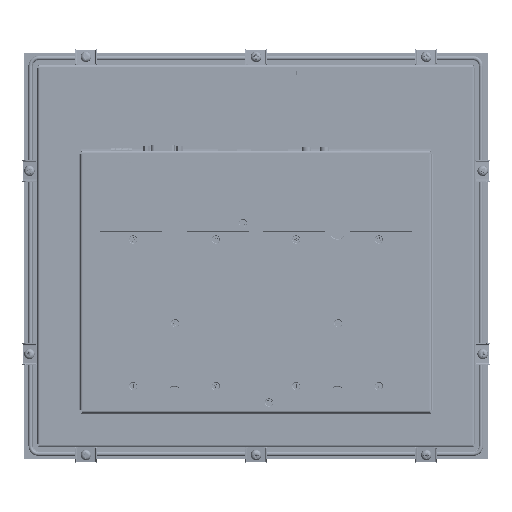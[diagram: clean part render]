
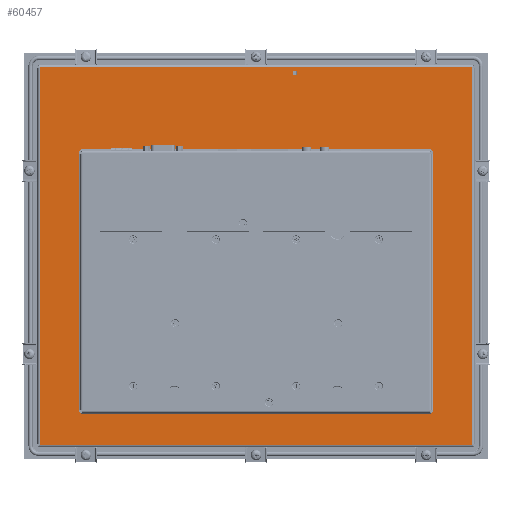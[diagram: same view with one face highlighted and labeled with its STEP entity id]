
A CAD part, front view. The second image highlights one B-rep face of the part: STEP entity #60457.
In plain terms, the highlighted planar face has unit normal (0, -1, 0).
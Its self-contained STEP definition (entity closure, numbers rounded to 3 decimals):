
#6678 = EDGE_CURVE ( 'NONE', #94868, #227664, #9383, .T. ) ;
#9383 = LINE ( 'NONE', #206292, #215999 ) ;
#10207 = VECTOR ( 'NONE', #42493, 1000. ) ;
#12584 = AXIS2_PLACEMENT_3D ( 'NONE', #89843, #246647, #88504 ) ;
#12777 = CARTESIAN_POINT ( 'NONE',  ( -165.2, -19.35, -138.277 ) ) ;
#13861 = VERTEX_POINT ( 'NONE', #133307 ) ;
#14222 = EDGE_CURVE ( 'NONE', #120765, #82342, #125392, .T. ) ;
#17472 = VERTEX_POINT ( 'NONE', #200472 ) ;
#17811 = LINE ( 'NONE', #96759, #134117 ) ;
#18886 = VERTEX_POINT ( 'NONE', #155862 ) ;
#21225 = LINE ( 'NONE', #160995, #137488 ) ;
#22937 = LINE ( 'NONE', #256159, #82817 ) ;
#24504 = EDGE_CURVE ( 'NONE', #76722, #13861, #39013, .T. ) ;
#26798 = ORIENTED_EDGE ( 'NONE', *, *, #53403, .T. ) ;
#27034 = DIRECTION ( 'NONE',  ( 0., 0., 1. ) ) ;
#28979 = PLANE ( 'NONE',  #12584 ) ;
#31308 = ORIENTED_EDGE ( 'NONE', *, *, #64352, .T. ) ;
#32636 = ORIENTED_EDGE ( 'NONE', *, *, #33282, .T. ) ;
#33282 = EDGE_CURVE ( 'NONE', #227664, #18886, #121607, .T. ) ;
#38412 = VECTOR ( 'NONE', #119178, 1000. ) ;
#38954 = EDGE_CURVE ( 'NONE', #118944, #140153, #42699, .T. ) ;
#39013 = LINE ( 'NONE', #134771, #38412 ) ;
#41089 = ORIENTED_EDGE ( 'NONE', *, *, #197604, .T. ) ;
#41456 = DIRECTION ( 'NONE',  ( 0., 0., 1. ) ) ;
#42493 = DIRECTION ( 'NONE',  ( 0., 0., 1. ) ) ;
#42699 = LINE ( 'NONE', #178569, #234829 ) ;
#43115 = ORIENTED_EDGE ( 'NONE', *, *, #246004, .T. ) ;
#44816 = CARTESIAN_POINT ( 'NONE',  ( 165.2, -19.35, 149.152 ) ) ;
#45789 = DIRECTION ( 'NONE',  ( -0.707, 0., 0.707 ) ) ;
#48034 = VECTOR ( 'NONE', #61952, 1000. ) ;
#53403 = EDGE_CURVE ( 'NONE', #198792, #94868, #67308, .T. ) ;
#55376 = EDGE_CURVE ( 'NONE', #83539, #78266, #199138, .T. ) ;
#60067 = DIRECTION ( 'NONE',  ( 0., 0., -1. ) ) ;
#60457 = ADVANCED_FACE ( 'NONE', ( #250439, #149301 ), #28979, .F. ) ;
#61952 = DIRECTION ( 'NONE',  ( 1., 0., 0. ) ) ;
#64352 = EDGE_CURVE ( 'NONE', #18886, #83539, #204359, .T. ) ;
#67308 = LINE ( 'NONE', #183691, #179329 ) ;
#69606 = DIRECTION ( 'NONE',  ( 0., 0., -1. ) ) ;
#74259 = LINE ( 'NONE', #159569, #138525 ) ;
#74276 = DIRECTION ( 'NONE',  ( 0., 0., 1. ) ) ;
#76722 = VERTEX_POINT ( 'NONE', #79334 ) ;
#78266 = VERTEX_POINT ( 'NONE', #113749 ) ;
#79334 = CARTESIAN_POINT ( 'NONE',  ( -165.2, -19.35, -139.248 ) ) ;
#82254 = EDGE_CURVE ( 'NONE', #193181, #118944, #74259, .T. ) ;
#82342 = VERTEX_POINT ( 'NONE', #140249 ) ;
#82817 = VECTOR ( 'NONE', #235423, 1000. ) ;
#83539 = VERTEX_POINT ( 'NONE', #141228 ) ;
#83787 = CARTESIAN_POINT ( 'NONE',  ( 133.25, -19.35, -116.048 ) ) ;
#85249 = ORIENTED_EDGE ( 'NONE', *, *, #192854, .T. ) ;
#85448 = DIRECTION ( 'NONE',  ( -1., 0., 0. ) ) ;
#88504 = DIRECTION ( 'NONE',  ( -1., 0., 0. ) ) ;
#89843 = CARTESIAN_POINT ( 'NONE',  ( 0., -19.35, 4.952 ) ) ;
#91819 = ORIENTED_EDGE ( 'NONE', *, *, #82254, .T. ) ;
#94868 = VERTEX_POINT ( 'NONE', #161113 ) ;
#96512 = DIRECTION ( 'NONE',  ( 0., 0., -1. ) ) ;
#96759 = CARTESIAN_POINT ( 'NONE',  ( 107.375, -19.35, 112.327 ) ) ;
#100691 = CARTESIAN_POINT ( 'NONE',  ( -135.25, -19.35, 86.452 ) ) ;
#101402 = VECTOR ( 'NONE', #105890, 1000. ) ;
#103675 = EDGE_CURVE ( 'NONE', #17472, #198792, #22937, .T. ) ;
#105823 = CARTESIAN_POINT ( 'NONE',  ( -165.2, -19.35, 4.952 ) ) ;
#105890 = DIRECTION ( 'NONE',  ( 0.707, 0., 0.707 ) ) ;
#107203 = CARTESIAN_POINT ( 'NONE',  ( -135.25, -19.35, -114.048 ) ) ;
#109748 = VECTOR ( 'NONE', #74276, 1000. ) ;
#113095 = CARTESIAN_POINT ( 'NONE',  ( 165.2, -19.35, 4.952 ) ) ;
#113749 = CARTESIAN_POINT ( 'NONE',  ( 133.25, -19.35, 86.452 ) ) ;
#116206 = EDGE_CURVE ( 'NONE', #82342, #193181, #255016, .T. ) ;
#118944 = VERTEX_POINT ( 'NONE', #226606 ) ;
#119178 = DIRECTION ( 'NONE',  ( 1., 0., 0. ) ) ;
#120765 = VERTEX_POINT ( 'NONE', #128165 ) ;
#121607 = LINE ( 'NONE', #242227, #242077 ) ;
#125392 = LINE ( 'NONE', #204435, #234116 ) ;
#128165 = CARTESIAN_POINT ( 'NONE',  ( 165.2, -19.35, -138.277 ) ) ;
#131430 = VERTEX_POINT ( 'NONE', #222986 ) ;
#133307 = CARTESIAN_POINT ( 'NONE',  ( 165.2, -19.35, -139.248 ) ) ;
#134117 = VECTOR ( 'NONE', #221139, 1000. ) ;
#134771 = CARTESIAN_POINT ( 'NONE',  ( 0., -19.35, -139.248 ) ) ;
#137488 = VECTOR ( 'NONE', #60067, 1000. ) ;
#138525 = VECTOR ( 'NONE', #238754, 1000. ) ;
#140153 = VERTEX_POINT ( 'NONE', #180289 ) ;
#140249 = CARTESIAN_POINT ( 'NONE',  ( 165.2, -19.35, 148.181 ) ) ;
#140783 = ORIENTED_EDGE ( 'NONE', *, *, #55376, .T. ) ;
#141228 = CARTESIAN_POINT ( 'NONE',  ( -133.25, -19.35, 86.452 ) ) ;
#141987 = ORIENTED_EDGE ( 'NONE', *, *, #24504, .T. ) ;
#149301 = FACE_BOUND ( 'NONE', #225538, .T. ) ;
#155862 = CARTESIAN_POINT ( 'NONE',  ( -135.25, -19.35, 84.452 ) ) ;
#159569 = CARTESIAN_POINT ( 'NONE',  ( 0., -19.35, 149.152 ) ) ;
#160995 = CARTESIAN_POINT ( 'NONE',  ( 135.25, -19.35, -116.048 ) ) ;
#161113 = CARTESIAN_POINT ( 'NONE',  ( -133.25, -19.35, -116.048 ) ) ;
#166643 = EDGE_CURVE ( 'NONE', #78266, #131430, #17811, .T. ) ;
#176646 = VECTOR ( 'NONE', #96512, 1000. ) ;
#178569 = CARTESIAN_POINT ( 'NONE',  ( -165.2, -19.35, 4.952 ) ) ;
#179329 = VECTOR ( 'NONE', #85448, 1000. ) ;
#179854 = DIRECTION ( 'NONE',  ( 0., 0., -1. ) ) ;
#180289 = CARTESIAN_POINT ( 'NONE',  ( -165.2, -19.35, 148.181 ) ) ;
#183691 = CARTESIAN_POINT ( 'NONE',  ( -135.25, -19.35, -116.048 ) ) ;
#186785 = EDGE_CURVE ( 'NONE', #212474, #76722, #249587, .T. ) ;
#192675 = ORIENTED_EDGE ( 'NONE', *, *, #14222, .T. ) ;
#192854 = EDGE_CURVE ( 'NONE', #140153, #212474, #244568, .T. ) ;
#193181 = VERTEX_POINT ( 'NONE', #44816 ) ;
#197604 = EDGE_CURVE ( 'NONE', #131430, #17472, #21225, .T. ) ;
#197715 = ORIENTED_EDGE ( 'NONE', *, *, #103675, .T. ) ;
#197848 = ORIENTED_EDGE ( 'NONE', *, *, #38954, .T. ) ;
#198792 = VERTEX_POINT ( 'NONE', #83787 ) ;
#199138 = LINE ( 'NONE', #100691, #48034 ) ;
#200472 = CARTESIAN_POINT ( 'NONE',  ( 135.25, -19.35, -114.048 ) ) ;
#202498 = ORIENTED_EDGE ( 'NONE', *, *, #116206, .T. ) ;
#203088 = CARTESIAN_POINT ( 'NONE',  ( -107.375, -19.35, 112.327 ) ) ;
#204359 = LINE ( 'NONE', #203088, #101402 ) ;
#204435 = CARTESIAN_POINT ( 'NONE',  ( 165.2, -19.35, 4.952 ) ) ;
#206292 = CARTESIAN_POINT ( 'NONE',  ( -127.125, -19.35, -122.173 ) ) ;
#207207 = ORIENTED_EDGE ( 'NONE', *, *, #166643, .T. ) ;
#211635 = EDGE_LOOP ( 'NONE', ( #141987, #43115, #192675, #202498, #91819, #197848, #85249, #216747 ) ) ;
#212474 = VERTEX_POINT ( 'NONE', #12777 ) ;
#212837 = LINE ( 'NONE', #113095, #109748 ) ;
#215999 = VECTOR ( 'NONE', #45789, 1000. ) ;
#216747 = ORIENTED_EDGE ( 'NONE', *, *, #186785, .T. ) ;
#218702 = CARTESIAN_POINT ( 'NONE',  ( 165.2, -19.35, 4.952 ) ) ;
#221139 = DIRECTION ( 'NONE',  ( 0.707, 0., -0.707 ) ) ;
#222986 = CARTESIAN_POINT ( 'NONE',  ( 135.25, -19.35, 84.452 ) ) ;
#225538 = EDGE_LOOP ( 'NONE', ( #140783, #207207, #41089, #197715, #26798, #250264, #32636, #31308 ) ) ;
#226606 = CARTESIAN_POINT ( 'NONE',  ( -165.2, -19.35, 149.152 ) ) ;
#227664 = VERTEX_POINT ( 'NONE', #107203 ) ;
#234116 = VECTOR ( 'NONE', #27034, 1000. ) ;
#234829 = VECTOR ( 'NONE', #179854, 1000. ) ;
#235423 = DIRECTION ( 'NONE',  ( -0.707, 0., -0.707 ) ) ;
#238754 = DIRECTION ( 'NONE',  ( -1., 0., 0. ) ) ;
#242077 = VECTOR ( 'NONE', #41456, 1000. ) ;
#242227 = CARTESIAN_POINT ( 'NONE',  ( -135.25, -19.35, -116.048 ) ) ;
#244568 = LINE ( 'NONE', #105823, #245917 ) ;
#245917 = VECTOR ( 'NONE', #69606, 1000. ) ;
#246004 = EDGE_CURVE ( 'NONE', #13861, #120765, #212837, .T. ) ;
#246647 = DIRECTION ( 'NONE',  ( 0., 1., 0. ) ) ;
#249587 = LINE ( 'NONE', #254649, #176646 ) ;
#250264 = ORIENTED_EDGE ( 'NONE', *, *, #6678, .T. ) ;
#250439 = FACE_OUTER_BOUND ( 'NONE', #211635, .T. ) ;
#254649 = CARTESIAN_POINT ( 'NONE',  ( -165.2, -19.35, 4.952 ) ) ;
#255016 = LINE ( 'NONE', #218702, #10207 ) ;
#256159 = CARTESIAN_POINT ( 'NONE',  ( 127.125, -19.35, -122.173 ) ) ;
